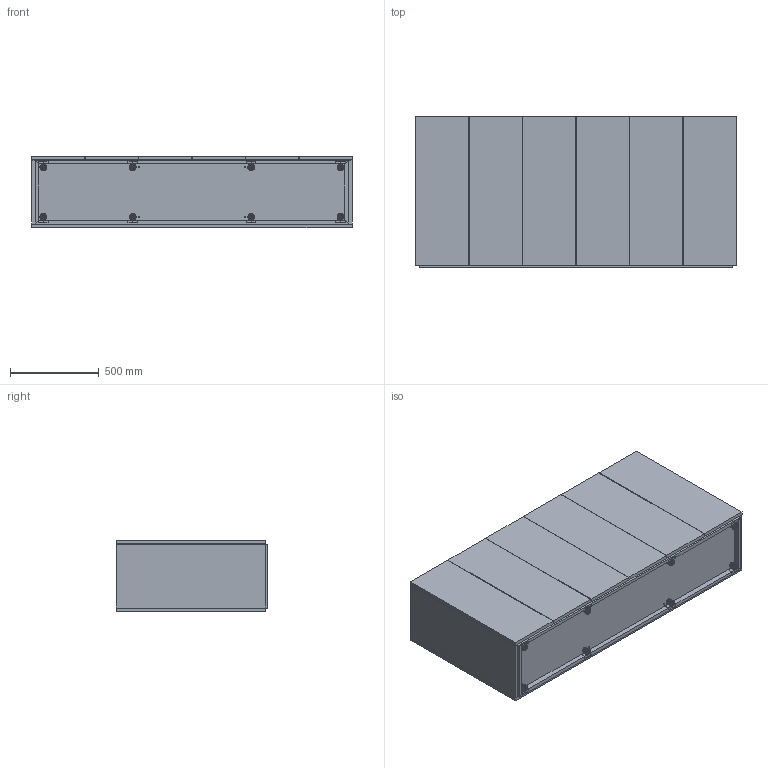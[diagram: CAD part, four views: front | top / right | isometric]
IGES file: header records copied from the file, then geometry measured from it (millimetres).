
Start section: SolidWorks IGES file using analytic representation for surfaces
Global section: file name: C:\DOCUMENTI_UT\030_PRODUZIONE MAKRO\SW\MOBILI_LAVABO\MODULO30\ASSIEMI\TOP TECH LATERALE\MODULO30_180\MODULO30_180_6ANTE_MOBILE_LAVABOSX_ISOLA.IGS; native system: SolidWorks 2012; preprocessor: SolidWorks 2012; author: TECNICO; date: 160519.091649; units: millimetre
Bounding box: 1801 x 851.15 x 400 mm (x, y, z)
Surface area: 9840172.7 mm2 (no closed solid volume)
Topology: 0 solids, 0 shells, 600 faces, 9922 edges, 9898 vertices
Faces by surface type: bspline 339, revolution 261
